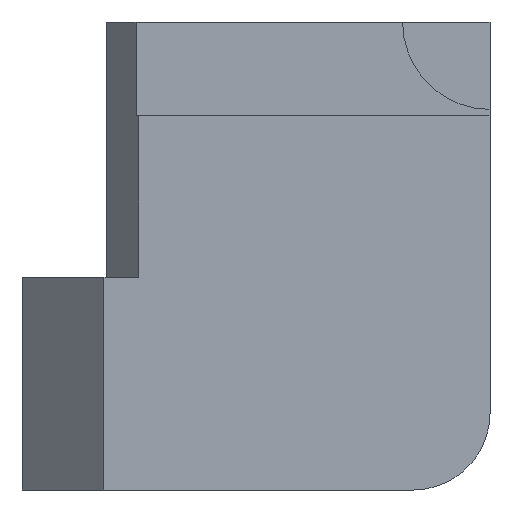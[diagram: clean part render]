
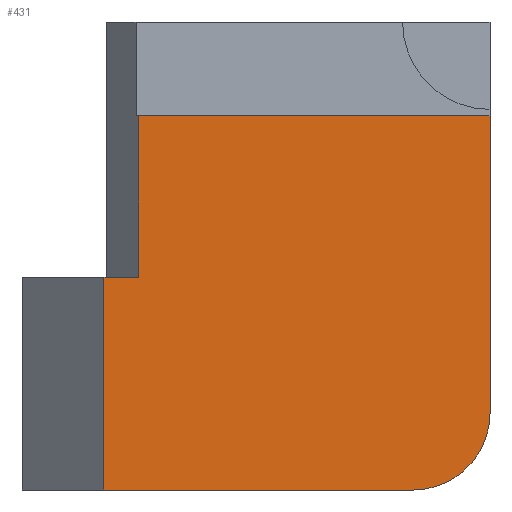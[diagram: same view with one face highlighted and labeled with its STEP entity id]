
A CAD part, front view. The second image highlights one B-rep face of the part: STEP entity #431.
In plain terms, the highlighted planar face has unit normal (0, -1, 0).
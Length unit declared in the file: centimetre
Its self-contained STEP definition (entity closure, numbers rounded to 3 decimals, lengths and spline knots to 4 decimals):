
#7 = EDGE_CURVE ( 'NONE', #241, #590, #351, .T. ) ;
#20 = VERTEX_POINT ( 'NONE', #167 ) ;
#60 = CARTESIAN_POINT ( 'NONE',  ( 175.1713, 0., 1000. ) ) ;
#65 = CARTESIAN_POINT ( 'NONE',  ( 836.1214, 0., 0. ) ) ;
#70 = AXIS2_PLACEMENT_3D ( 'NONE', #105, #682, #867 ) ;
#100 = EDGE_CURVE ( 'NONE', #20, #1225, #929, .T. ) ;
#105 = CARTESIAN_POINT ( 'NONE',  ( 836.1214, 0., 163.8786 ) ) ;
#131 = LINE ( 'NONE', #1180, #666 ) ;
#141 = LINE ( 'NONE', #60, #514 ) ;
#154 = CARTESIAN_POINT ( 'NONE',  ( 175.1713, 0., 454.4076 ) ) ;
#166 = CIRCLE ( 'NONE', #70, 163.8786 ) ;
#167 = CARTESIAN_POINT ( 'NONE',  ( 1000., 0., 799.9562 ) ) ;
#174 = DIRECTION ( 'NONE',  ( 1., 0., 0. ) ) ;
#185 = DIRECTION ( 'NONE',  ( 0., 0., -1. ) ) ;
#196 = ORIENTED_EDGE ( 'NONE', *, *, #7, .F. ) ;
#228 = DIRECTION ( 'NONE',  ( -1., 0., 0. ) ) ;
#231 = VERTEX_POINT ( 'NONE', #65 ) ;
#237 = EDGE_CURVE ( 'NONE', #20, #653, #131, .T. ) ;
#239 = DIRECTION ( 'NONE',  ( 0., 1., 0. ) ) ;
#241 = VERTEX_POINT ( 'NONE', #154 ) ;
#248 = LINE ( 'NONE', #994, #652 ) ;
#272 = VECTOR ( 'NONE', #185, 100. ) ;
#277 = CARTESIAN_POINT ( 'NONE',  ( 249.3636, 0., 454.4076 ) ) ;
#306 = EDGE_CURVE ( 'NONE', #462, #231, #248, .T. ) ;
#316 = VECTOR ( 'NONE', #174, 100. ) ;
#351 = LINE ( 'NONE', #277, #316 ) ;
#357 = CARTESIAN_POINT ( 'NONE',  ( 249.3636, 0., 454.4076 ) ) ;
#373 = AXIS2_PLACEMENT_3D ( 'NONE', #1085, #239, #517 ) ;
#395 = EDGE_CURVE ( 'NONE', #241, #462, #141, .T. ) ;
#431 = ADVANCED_FACE ( 'NONE', ( #712 ), #445, .F. ) ;
#445 = PLANE ( 'NONE',  #373 ) ;
#448 = CARTESIAN_POINT ( 'NONE',  ( 1000., 0., 1000. ) ) ;
#452 = DIRECTION ( 'NONE',  ( 0., 0., -1. ) ) ;
#462 = VERTEX_POINT ( 'NONE', #761 ) ;
#464 = CARTESIAN_POINT ( 'NONE',  ( 249.3636, 0., 454.4076 ) ) ;
#514 = VECTOR ( 'NONE', #452, 100. ) ;
#517 = DIRECTION ( 'NONE',  ( 0., 0., 1. ) ) ;
#590 = VERTEX_POINT ( 'NONE', #357 ) ;
#606 = ORIENTED_EDGE ( 'NONE', *, *, #780, .T. ) ;
#652 = VECTOR ( 'NONE', #921, 100. ) ;
#653 = VERTEX_POINT ( 'NONE', #845 ) ;
#666 = VECTOR ( 'NONE', #228, 100. ) ;
#682 = DIRECTION ( 'NONE',  ( 0., -1., 0. ) ) ;
#712 = FACE_OUTER_BOUND ( 'NONE', #1016, .T. ) ;
#761 = CARTESIAN_POINT ( 'NONE',  ( 175.1713, 0., 0. ) ) ;
#769 = LINE ( 'NONE', #464, #849 ) ;
#780 = EDGE_CURVE ( 'NONE', #231, #1225, #166, .T. ) ;
#845 = CARTESIAN_POINT ( 'NONE',  ( 249.3636, 0., 799.9562 ) ) ;
#849 = VECTOR ( 'NONE', #1137, 100. ) ;
#867 = DIRECTION ( 'NONE',  ( 0., 0., 1. ) ) ;
#921 = DIRECTION ( 'NONE',  ( 1., 0., 0. ) ) ;
#929 = LINE ( 'NONE', #448, #272 ) ;
#936 = ORIENTED_EDGE ( 'NONE', *, *, #100, .F. ) ;
#992 = ORIENTED_EDGE ( 'NONE', *, *, #237, .T. ) ;
#994 = CARTESIAN_POINT ( 'NONE',  ( 0., 0., 0. ) ) ;
#1016 = EDGE_LOOP ( 'NONE', ( #936, #992, #1168, #196, #1152, #1021, #606 ) ) ;
#1021 = ORIENTED_EDGE ( 'NONE', *, *, #306, .T. ) ;
#1085 = CARTESIAN_POINT ( 'NONE',  ( 0., 0., 1000. ) ) ;
#1131 = CARTESIAN_POINT ( 'NONE',  ( 1000., 0., 163.8786 ) ) ;
#1137 = DIRECTION ( 'NONE',  ( 0., 0., 1. ) ) ;
#1152 = ORIENTED_EDGE ( 'NONE', *, *, #395, .T. ) ;
#1168 = ORIENTED_EDGE ( 'NONE', *, *, #1217, .F. ) ;
#1180 = CARTESIAN_POINT ( 'NONE',  ( 1000., 0., 799.9562 ) ) ;
#1217 = EDGE_CURVE ( 'NONE', #590, #653, #769, .T. ) ;
#1225 = VERTEX_POINT ( 'NONE', #1131 ) ;
